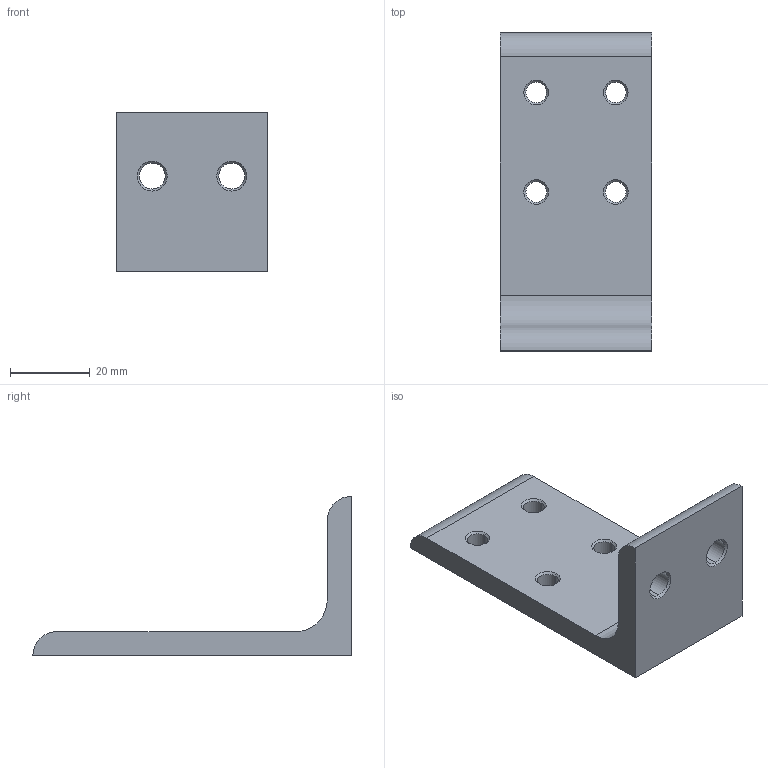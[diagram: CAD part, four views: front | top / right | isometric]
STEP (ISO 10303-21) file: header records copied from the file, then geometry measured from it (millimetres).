
FILE_DESCRIPTION (( 'STEP AP214' ), '1' );
FILE_NAME ('112040AL.STEP', '2017-04-27T09:46:19', ( '' ), ( '' ), 'SwSTEP 2.0', 'SolidWorks 2014', '' );
FILE_SCHEMA (( 'AUTOMOTIVE_DESIGN' ));
Length unit declared in the file: millimetre
Products named in the file (1): 112040AL
Bounding box: 38 x 80 x 40 mm (x, y, z)
Volume: 24992.7 mm3; surface area: 10434.5 mm2
Topology: 1 solids, 1 shells, 45 faces, 105 edges, 62 vertices
Faces by surface type: cone 24, cylinder 15, plane 6
Entity records: 1339 total; most frequent: DIRECTION 251, CARTESIAN_POINT 213, ORIENTED_EDGE 210, EDGE_CURVE 105, AXIS2_PLACEMENT_3D 100, VERTEX_POINT 62, EDGE_LOOP 57, CIRCLE 54
